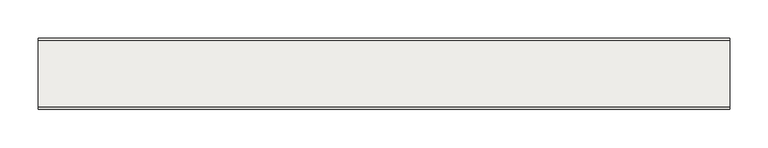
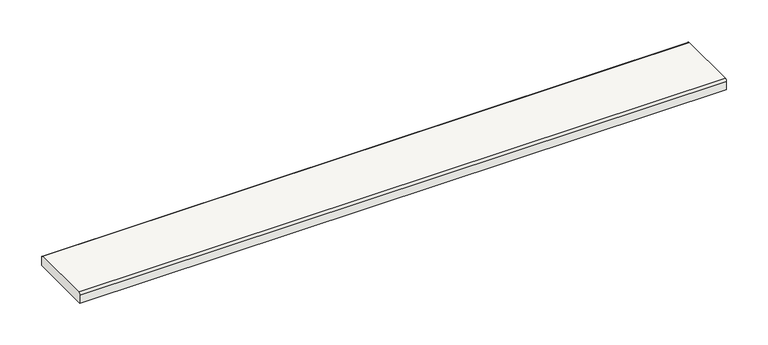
"""IFC4 building model written with IfcOpenShell, lengths in millimetres: covering geometry, Z_DO_NOT_USE_NLRS_PF_52_UN_Multi Grate_Easydrain : 1 - Fixt."""

from ifc_helpers import new_model, si_unit, point, frame, frame_2d, origin, place, context, project, spatial, polyline, circle_curve, trimmed, segment, composite_curve, outline, extrude, source, transform, mapped, element, save


def covering_6938fe76(model_context):
    return source(origin(), model_context, "Body", "SweptSolid", [
        extrude(outline(composite_curve([segment(polyline([(-43.0, 0.0), (43.0, 0.0)]), True, "CONTINUOUS"), segment(trimmed(circle_curve(frame_2d((43.0, -3.0)), 3.0), [point((43.0, 0.0))], [point((46.0, -3.0))], False, "CARTESIAN"), True, "CONTINUOUS"), segment(polyline([(46.0, -3.0), (46.0, -15.0), (-46.0, -15.0), (-46.0, -3.0)]), True, "CONTINUOUS"), segment(trimmed(circle_curve(frame_2d((-43.0, -3.0)), 3.0), [point((-46.0, -3.0))], [point((-43.0, 0.0))], False, "CARTESIAN"), True, "CONTINUOUS")], self_intersect=False)), frame((-449.0, 0.0, 0.0), z_axis=(1.0, 0.0, 0.0), x_axis=(0.0, 1.0, 0.0)), (0.0, 0.0, 1.0), 898.0),
    ])


if __name__ == "__main__":
    model = new_model("IFC4")
    model_context = context("Model", 3, world=origin())
    ifc_project = project(units=[si_unit("LENGTHUNIT", "METRE", prefix="MILLI")], contexts=[model_context])
    site = spatial("IfcSite", under=ifc_project)
    building = spatial("IfcBuilding", under=site)
    placement = place(None, origin())
    covering_shape = covering_6938fe76(model_context)
    element("IfcCovering", 1, ObjectType="Z_DO_NOT_USE_NLRS_PF_52_UN_Multi Grate_Easydrain : 1 - Fixt", at=placement, inside=building, context=model_context, shape_type="MappedRepresentation", body=[
        mapped(covering_shape, transform((0.0, 0.0, 0.0), x_axis=(1.0, 0.0, 0.0), y_axis=(0.0, 1.0, 0.0), z_axis=(0.0, 0.0, 1.0))),
    ])
    save(model, "model.ifc")
